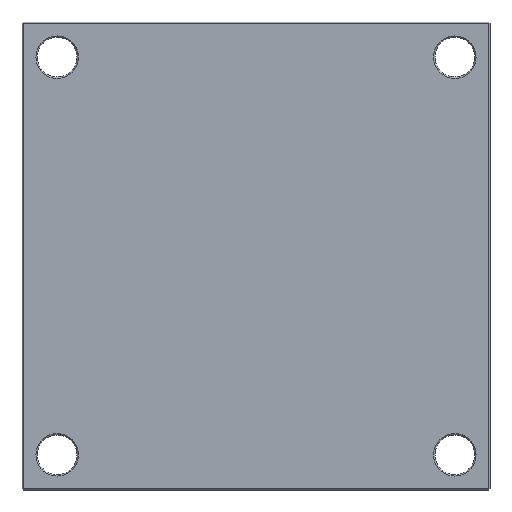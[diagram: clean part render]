
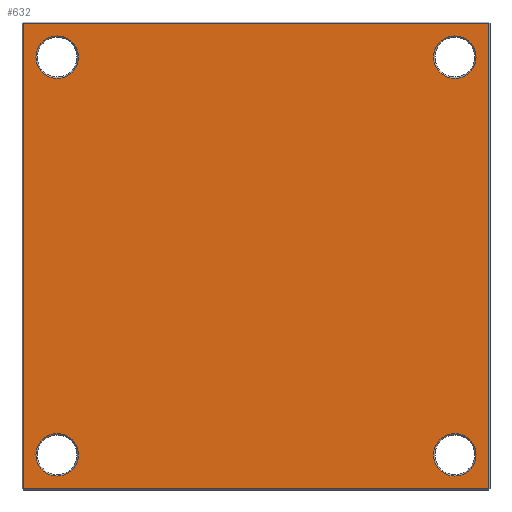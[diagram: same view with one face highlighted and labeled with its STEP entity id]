
A CAD part, front view. The second image highlights one B-rep face of the part: STEP entity #632.
In plain terms, the highlighted planar face has unit normal (0, -1, 0).
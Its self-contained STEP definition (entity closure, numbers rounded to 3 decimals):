
#19 = EDGE_LOOP ( 'NONE', ( #1238, #789 ) ) ;
#20 = CARTESIAN_POINT ( 'NONE',  ( -147., 0., -162.7 ) ) ;
#60 = ORIENTED_EDGE ( 'NONE', *, *, #887, .T. ) ;
#74 = PLANE ( 'NONE',  #550 ) ;
#136 = EDGE_LOOP ( 'NONE', ( #1654, #2073, #357, #850 ) ) ;
#166 = CARTESIAN_POINT ( 'NONE',  ( 147., 0., -147. ) ) ;
#189 = DIRECTION ( 'NONE',  ( 0., 1., 0. ) ) ;
#194 = CARTESIAN_POINT ( 'NONE',  ( 147., 0., 162.7 ) ) ;
#196 = DIRECTION ( 'NONE',  ( 0., 0., 1. ) ) ;
#212 = CIRCLE ( 'NONE', #387, 15.7 ) ;
#226 = EDGE_LOOP ( 'NONE', ( #1182, #1979 ) ) ;
#231 = CARTESIAN_POINT ( 'NONE',  ( -147., 0., 162.7 ) ) ;
#265 = AXIS2_PLACEMENT_3D ( 'NONE', #1498, #1532, #1542 ) ;
#266 = AXIS2_PLACEMENT_3D ( 'NONE', #1287, #1366, #1392 ) ;
#267 = LINE ( 'NONE', #834, #1605 ) ;
#274 = AXIS2_PLACEMENT_3D ( 'NONE', #892, #916, #1025 ) ;
#275 = AXIS2_PLACEMENT_3D ( 'NONE', #858, #869, #878 ) ;
#326 = FACE_BOUND ( 'NONE', #528, .T. ) ;
#329 = CIRCLE ( 'NONE', #275, 15.7 ) ;
#357 = ORIENTED_EDGE ( 'NONE', *, *, #1091, .T. ) ;
#382 = AXIS2_PLACEMENT_3D ( 'NONE', #561, #565, #594 ) ;
#385 = AXIS2_PLACEMENT_3D ( 'NONE', #166, #189, #196 ) ;
#387 = AXIS2_PLACEMENT_3D ( 'NONE', #1593, #1606, #1681 ) ;
#389 = FACE_BOUND ( 'NONE', #19, .T. ) ;
#401 = AXIS2_PLACEMENT_3D ( 'NONE', #719, #728, #740 ) ;
#447 = CARTESIAN_POINT ( 'NONE',  ( 0., 0., 0. ) ) ;
#528 = EDGE_LOOP ( 'NONE', ( #619, #1122 ) ) ;
#550 = AXIS2_PLACEMENT_3D ( 'NONE', #447, #1655, #670 ) ;
#561 = CARTESIAN_POINT ( 'NONE',  ( 147., 0., 147. ) ) ;
#565 = DIRECTION ( 'NONE',  ( 0., 1., 0. ) ) ;
#594 = DIRECTION ( 'NONE',  ( 0., 0., 1. ) ) ;
#601 = VECTOR ( 'NONE', #1853, 1000. ) ;
#619 = ORIENTED_EDGE ( 'NONE', *, *, #947, .T. ) ;
#632 = ADVANCED_FACE ( 'NONE', ( #1322, #326, #2099, #389, #951 ), #74, .F. ) ;
#659 = LINE ( 'NONE', #1671, #601 ) ;
#666 = DIRECTION ( 'NONE',  ( 0., 0., 1. ) ) ;
#669 = VERTEX_POINT ( 'NONE', #1021 ) ;
#670 = DIRECTION ( 'NONE',  ( 0., 0., 1. ) ) ;
#719 = CARTESIAN_POINT ( 'NONE',  ( -147., 0., -147. ) ) ;
#728 = DIRECTION ( 'NONE',  ( 0., 1., 0. ) ) ;
#740 = DIRECTION ( 'NONE',  ( 0., 0., 1. ) ) ;
#769 = CIRCLE ( 'NONE', #265, 15.7 ) ;
#789 = ORIENTED_EDGE ( 'NONE', *, *, #1064, .T. ) ;
#834 = CARTESIAN_POINT ( 'NONE',  ( 172., 0., 0. ) ) ;
#837 = CIRCLE ( 'NONE', #401, 15.7 ) ;
#850 = ORIENTED_EDGE ( 'NONE', *, *, #1095, .T. ) ;
#858 = CARTESIAN_POINT ( 'NONE',  ( -147., 0., -147. ) ) ;
#869 = DIRECTION ( 'NONE',  ( 0., 1., 0. ) ) ;
#878 = DIRECTION ( 'NONE',  ( 0., 0., 1. ) ) ;
#887 = EDGE_CURVE ( 'NONE', #1679, #2034, #837, .T. ) ;
#892 = CARTESIAN_POINT ( 'NONE',  ( 147., 0., -147. ) ) ;
#914 = EDGE_CURVE ( 'NONE', #1683, #1846, #212, .T. ) ;
#916 = DIRECTION ( 'NONE',  ( 0., 1., 0. ) ) ;
#947 = EDGE_CURVE ( 'NONE', #1452, #1081, #1810, .T. ) ;
#951 = FACE_OUTER_BOUND ( 'NONE', #136, .T. ) ;
#960 = EDGE_CURVE ( 'NONE', #2162, #1154, #2123, .T. ) ;
#964 = CARTESIAN_POINT ( 'NONE',  ( 172., 0., 172. ) ) ;
#1021 = CARTESIAN_POINT ( 'NONE',  ( -172., 0., -172. ) ) ;
#1025 = DIRECTION ( 'NONE',  ( 0., 0., 1. ) ) ;
#1054 = EDGE_CURVE ( 'NONE', #2034, #1679, #329, .T. ) ;
#1057 = EDGE_CURVE ( 'NONE', #1081, #1452, #1646, .T. ) ;
#1061 = EDGE_CURVE ( 'NONE', #1154, #2162, #1325, .T. ) ;
#1062 = ORIENTED_EDGE ( 'NONE', *, *, #1054, .T. ) ;
#1064 = EDGE_CURVE ( 'NONE', #1846, #1683, #769, .T. ) ;
#1065 = EDGE_CURVE ( 'NONE', #1540, #1315, #267, .T. ) ;
#1081 = VERTEX_POINT ( 'NONE', #1651 ) ;
#1085 = EDGE_CURVE ( 'NONE', #1315, #1932, #1221, .T. ) ;
#1091 = EDGE_CURVE ( 'NONE', #1932, #669, #659, .T. ) ;
#1095 = EDGE_CURVE ( 'NONE', #669, #1540, #1105, .T. ) ;
#1105 = LINE ( 'NONE', #1959, #1888 ) ;
#1122 = ORIENTED_EDGE ( 'NONE', *, *, #1057, .T. ) ;
#1154 = VERTEX_POINT ( 'NONE', #194 ) ;
#1182 = ORIENTED_EDGE ( 'NONE', *, *, #960, .T. ) ;
#1208 = CARTESIAN_POINT ( 'NONE',  ( -147., 0., -131.3 ) ) ;
#1221 = LINE ( 'NONE', #1657, #1565 ) ;
#1238 = ORIENTED_EDGE ( 'NONE', *, *, #914, .T. ) ;
#1243 = CARTESIAN_POINT ( 'NONE',  ( 147., 0., -162.7 ) ) ;
#1287 = CARTESIAN_POINT ( 'NONE',  ( 147., 0., 147. ) ) ;
#1315 = VERTEX_POINT ( 'NONE', #964 ) ;
#1322 = FACE_BOUND ( 'NONE', #1698, .T. ) ;
#1325 = CIRCLE ( 'NONE', #266, 15.7 ) ;
#1366 = DIRECTION ( 'NONE',  ( 0., 1., 0. ) ) ;
#1392 = DIRECTION ( 'NONE',  ( 0., 0., 1. ) ) ;
#1452 = VERTEX_POINT ( 'NONE', #1243 ) ;
#1487 = CARTESIAN_POINT ( 'NONE',  ( 147., 0., 131.3 ) ) ;
#1498 = CARTESIAN_POINT ( 'NONE',  ( -147., 0., 147. ) ) ;
#1532 = DIRECTION ( 'NONE',  ( 0., 1., 0. ) ) ;
#1540 = VERTEX_POINT ( 'NONE', #1550 ) ;
#1542 = DIRECTION ( 'NONE',  ( 0., 0., 1. ) ) ;
#1550 = CARTESIAN_POINT ( 'NONE',  ( 172., 0., -172. ) ) ;
#1565 = VECTOR ( 'NONE', #1860, 1000. ) ;
#1593 = CARTESIAN_POINT ( 'NONE',  ( -147., 0., 147. ) ) ;
#1605 = VECTOR ( 'NONE', #666, 1000. ) ;
#1606 = DIRECTION ( 'NONE',  ( 0., 1., 0. ) ) ;
#1646 = CIRCLE ( 'NONE', #274, 15.7 ) ;
#1651 = CARTESIAN_POINT ( 'NONE',  ( 147., 0., -131.3 ) ) ;
#1654 = ORIENTED_EDGE ( 'NONE', *, *, #1065, .T. ) ;
#1655 = DIRECTION ( 'NONE',  ( 0., 1., 0. ) ) ;
#1657 = CARTESIAN_POINT ( 'NONE',  ( 0., 0., 172. ) ) ;
#1671 = CARTESIAN_POINT ( 'NONE',  ( -172., 0., 0. ) ) ;
#1679 = VERTEX_POINT ( 'NONE', #20 ) ;
#1681 = DIRECTION ( 'NONE',  ( 0., 0., 1. ) ) ;
#1683 = VERTEX_POINT ( 'NONE', #1685 ) ;
#1685 = CARTESIAN_POINT ( 'NONE',  ( -147., 0., 131.3 ) ) ;
#1698 = EDGE_LOOP ( 'NONE', ( #60, #1062 ) ) ;
#1810 = CIRCLE ( 'NONE', #385, 15.7 ) ;
#1846 = VERTEX_POINT ( 'NONE', #231 ) ;
#1853 = DIRECTION ( 'NONE',  ( 0., 0., -1. ) ) ;
#1860 = DIRECTION ( 'NONE',  ( -1., 0., 0. ) ) ;
#1873 = DIRECTION ( 'NONE',  ( 1., 0., 0. ) ) ;
#1888 = VECTOR ( 'NONE', #1873, 1000. ) ;
#1932 = VERTEX_POINT ( 'NONE', #2077 ) ;
#1959 = CARTESIAN_POINT ( 'NONE',  ( 0., 0., -172. ) ) ;
#1979 = ORIENTED_EDGE ( 'NONE', *, *, #1061, .T. ) ;
#2034 = VERTEX_POINT ( 'NONE', #1208 ) ;
#2073 = ORIENTED_EDGE ( 'NONE', *, *, #1085, .T. ) ;
#2077 = CARTESIAN_POINT ( 'NONE',  ( -172., 0., 172. ) ) ;
#2099 = FACE_BOUND ( 'NONE', #226, .T. ) ;
#2123 = CIRCLE ( 'NONE', #382, 15.7 ) ;
#2162 = VERTEX_POINT ( 'NONE', #1487 ) ;
